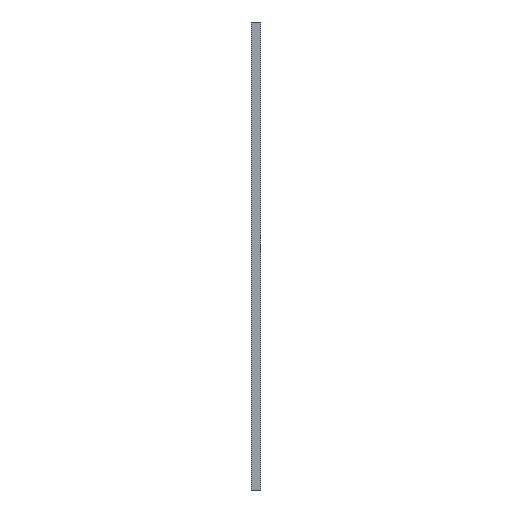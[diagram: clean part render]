
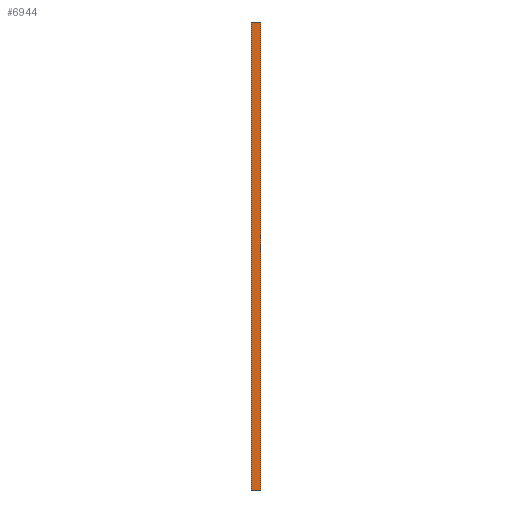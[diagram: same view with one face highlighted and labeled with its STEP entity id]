
A CAD part, front view. The second image highlights one B-rep face of the part: STEP entity #6944.
In plain terms, the highlighted planar face has unit normal (0, -1, 0).
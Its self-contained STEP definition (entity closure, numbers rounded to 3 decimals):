
#469=PLANE('',#7330);
#824=FACE_OUTER_BOUND('',#1145,.T.);
#1145=EDGE_LOOP('',(#5964,#5965,#5966,#5967));
#2182=LINE('',#10891,#3063);
#2183=LINE('',#10893,#3064);
#2184=LINE('',#10895,#3065);
#2185=LINE('',#10896,#3066);
#3063=VECTOR('',#8923,10.);
#3064=VECTOR('',#8924,10.);
#3065=VECTOR('',#8925,10.);
#3066=VECTOR('',#8926,10.);
#3743=VERTEX_POINT('',#10889);
#3744=VERTEX_POINT('',#10890);
#3745=VERTEX_POINT('',#10892);
#3746=VERTEX_POINT('',#10894);
#4692=EDGE_CURVE('',#3743,#3744,#2182,.T.);
#4693=EDGE_CURVE('',#3744,#3745,#2183,.T.);
#4694=EDGE_CURVE('',#3746,#3745,#2184,.T.);
#4695=EDGE_CURVE('',#3743,#3746,#2185,.T.);
#5964=ORIENTED_EDGE('',*,*,#4692,.T.);
#5965=ORIENTED_EDGE('',*,*,#4693,.T.);
#5966=ORIENTED_EDGE('',*,*,#4694,.F.);
#5967=ORIENTED_EDGE('',*,*,#4695,.F.);
#6944=ADVANCED_FACE('',(#824),#469,.T.);
#7330=AXIS2_PLACEMENT_3D('',#10888,#8921,#8922);
#8921=DIRECTION('center_axis',(0.,-1.,0.));
#8922=DIRECTION('ref_axis',(0.,0.,-1.));
#8923=DIRECTION('',(0.,0.,-1.));
#8924=DIRECTION('',(1.,0.,0.));
#8925=DIRECTION('',(0.,0.,-1.));
#8926=DIRECTION('',(1.,0.,0.));
#10888=CARTESIAN_POINT('Origin',(155.5,-129.8,26.8));
#10889=CARTESIAN_POINT('',(155.5,-129.8,26.8));
#10890=CARTESIAN_POINT('',(155.5,-129.8,-92.8));
#10891=CARTESIAN_POINT('',(155.5,-129.8,26.8));
#10892=CARTESIAN_POINT('',(158.,-129.8,-92.8));
#10893=CARTESIAN_POINT('',(155.5,-129.8,-92.8));
#10894=CARTESIAN_POINT('',(158.,-129.8,26.8));
#10895=CARTESIAN_POINT('',(158.,-129.8,26.8));
#10896=CARTESIAN_POINT('',(155.5,-129.8,26.8));
